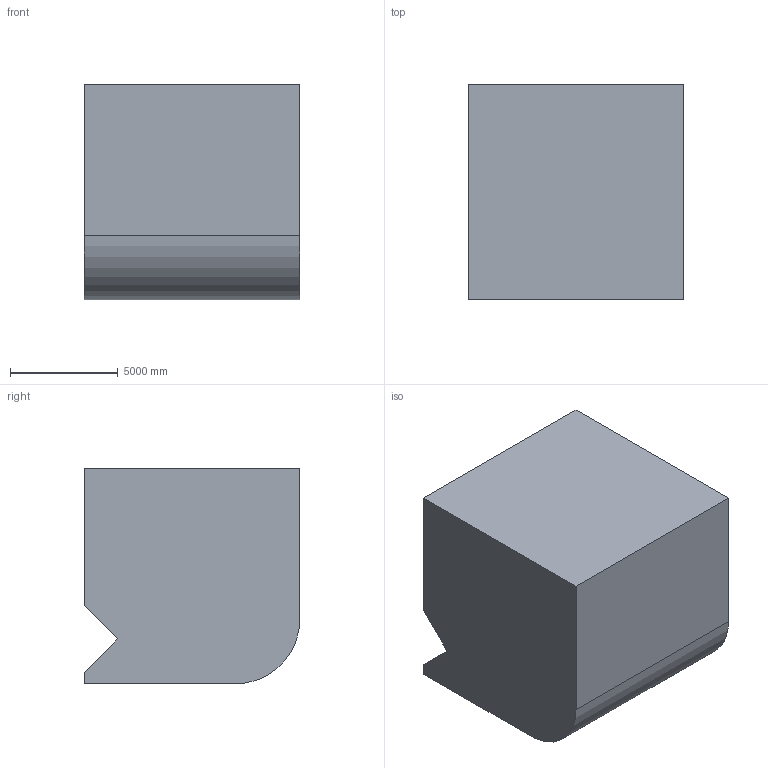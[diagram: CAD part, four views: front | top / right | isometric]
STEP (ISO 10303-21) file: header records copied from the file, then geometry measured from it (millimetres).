
FILE_DESCRIPTION (( 'STEP AP203' ), '1' );
FILE_NAME ('1168.STEP', '2022-08-18T13:01:41', ( 'user' ), ( '' ), 'SwSTEP 2.0', 'SolidWorks 2021', '' );
FILE_SCHEMA (( 'CONFIG_CONTROL_DESIGN' ));
Length unit declared in the file: centimetre
Products named in the file (1): 1168
Bounding box: 10000 x 10000 x 10000 mm (x, y, z)
Volume: 956781430236.5 mm3; surface area: 591332125.4 mm2
Topology: 1 solids, 1 shells, 10 faces, 24 edges, 16 vertices
Faces by surface type: plane 9, cylinder 1
Entity records: 367 total; most frequent: CARTESIAN_POINT 51, ORIENTED_EDGE 48, DIRECTION 48, EDGE_CURVE 24, LINE 22, VECTOR 22, VERTEX_POINT 16, AXIS2_PLACEMENT_3D 13
